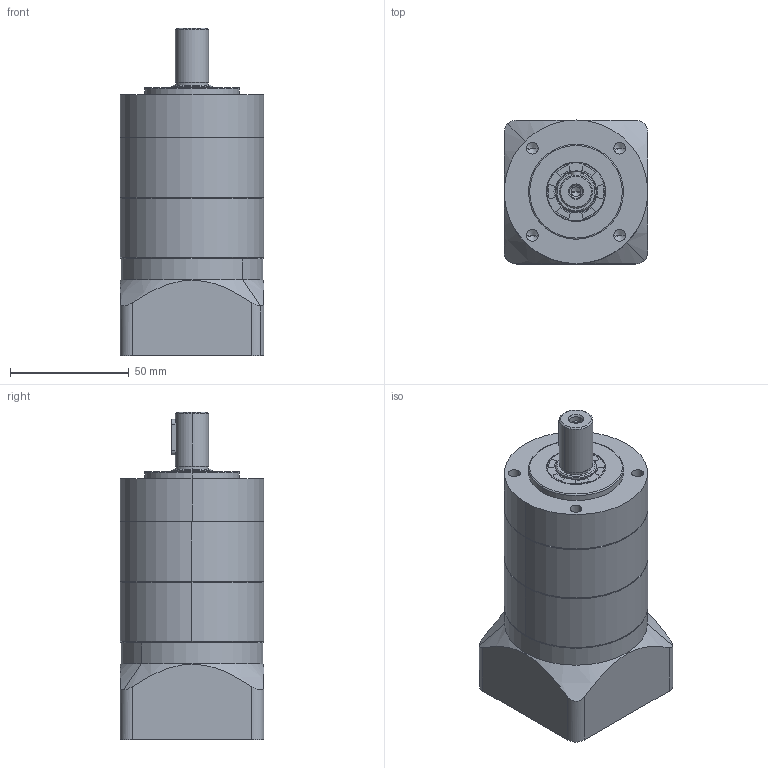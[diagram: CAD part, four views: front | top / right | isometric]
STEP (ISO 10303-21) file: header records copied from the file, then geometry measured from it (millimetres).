
FILE_DESCRIPTION (( 'STEP AP203' ), '1' );
FILE_NAME ('NB60-L2(8-36-70.71-M4).STEP', '2022-03-12T16:41:08', ( '' ), ( '' ), 'SwSTEP 2.0', 'SolidWorks 2016', '' );
FILE_SCHEMA (( 'CONFIG_CONTROL_DESIGN' ));
Length unit declared in the file: millimetre
Products named in the file (9): SN60-(36-70.71-M4); NB60-(40x3-52-M5); NB60-L2(8-36-70.71-M4); SN60-17x25x4; 60-(o14-8x17); SN60; SN60-(14); SN60-34x20x10.5-M5; SN60-(14x24-4x15)
Assembly tree (9 placements, depth 2):
  NB60-L2(8-36-70.71-M4)
    NB60-(40x3-52-M5)
    SN60-17x25x4
    SN60-(14x24-4x15)
    SN60  x2
    SN60-(36-70.71-M4)
    SN60-(14)
    60-(o14-8x17)
    SN60-34x20x10.5-M5
Bounding box: 60.5 x 60.5 x 138 mm (x, y, z)
Volume: 326697.9 mm3; surface area: 77833.4 mm2
Topology: 12 solids, 12 shells, 438 faces, 1101 edges, 692 vertices
Faces by surface type: cylinder 218, plane 107, cone 66, bspline 39, torus 8
Entity records: 31998 total; most frequent: CARTESIAN_POINT 21484, ORIENTED_EDGE 2074, DIRECTION 1928, EDGE_CURVE 1037, AXIS2_PLACEMENT_3D 761, VERTEX_POINT 668, EDGE_LOOP 485, ADVANCED_FACE 422
